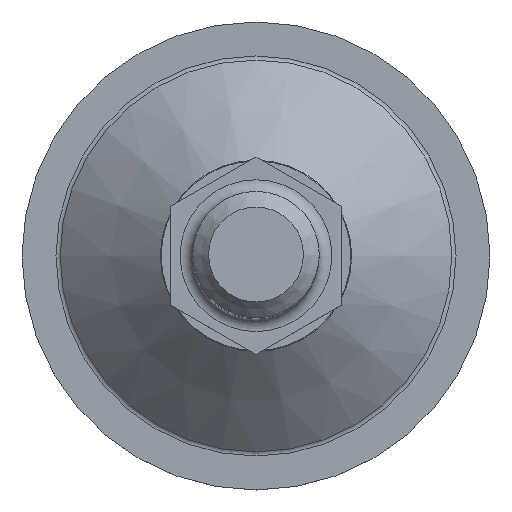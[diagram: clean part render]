
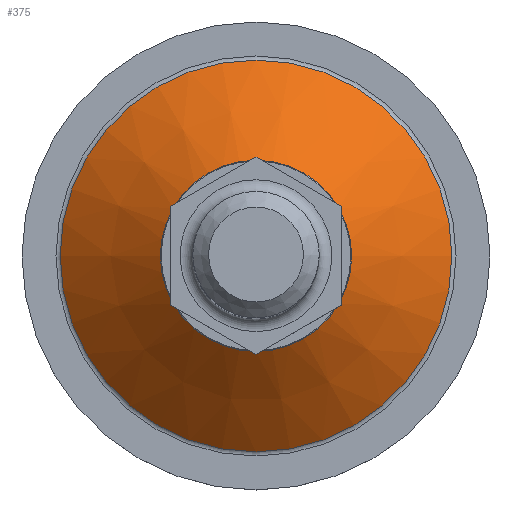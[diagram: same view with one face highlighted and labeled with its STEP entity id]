
A CAD part, top view. The second image highlights one B-rep face of the part: STEP entity #375.
In plain terms, the highlighted conical face has half-angle 49.002 degrees and reference radius 23.047 mm.
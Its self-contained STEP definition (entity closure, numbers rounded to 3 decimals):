
#71=CONICAL_SURFACE('',#420,23.047,49.002);
#81=FACE_BOUND('',#142,.T.);
#104=FACE_OUTER_BOUND('',#141,.T.);
#141=EDGE_LOOP('',(#294));
#142=EDGE_LOOP('',(#295));
#184=CIRCLE('',#406,15.124);
#192=CIRCLE('',#419,30.97);
#207=VERTEX_POINT('',#584);
#215=VERTEX_POINT('',#605);
#242=EDGE_CURVE('',#207,#207,#184,.T.);
#250=EDGE_CURVE('',#215,#215,#192,.T.);
#294=ORIENTED_EDGE('',*,*,#242,.T.);
#295=ORIENTED_EDGE('',*,*,#250,.F.);
#375=ADVANCED_FACE('',(#104,#81),#71,.T.);
#406=AXIS2_PLACEMENT_3D('',#585,#464,#465);
#419=AXIS2_PLACEMENT_3D('',#606,#490,#491);
#420=AXIS2_PLACEMENT_3D('',#607,#492,#493);
#464=DIRECTION('center_axis',(0.,0.,-1.));
#465=DIRECTION('ref_axis',(1.,0.,0.));
#490=DIRECTION('center_axis',(0.,0.,-1.));
#491=DIRECTION('ref_axis',(1.,0.,0.));
#492=DIRECTION('center_axis',(0.,0.,-1.));
#493=DIRECTION('ref_axis',(1.,0.,0.));
#584=CARTESIAN_POINT('',(91.933,169.802,-444.11));
#585=CARTESIAN_POINT('Origin',(107.057,169.802,-444.11));
#605=CARTESIAN_POINT('',(76.087,169.802,-457.884));
#606=CARTESIAN_POINT('Origin',(107.057,169.802,-457.884));
#607=CARTESIAN_POINT('Origin',(107.057,169.802,-450.997));
